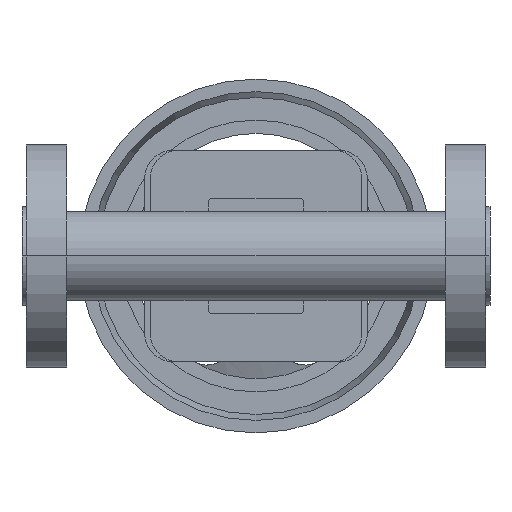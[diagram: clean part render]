
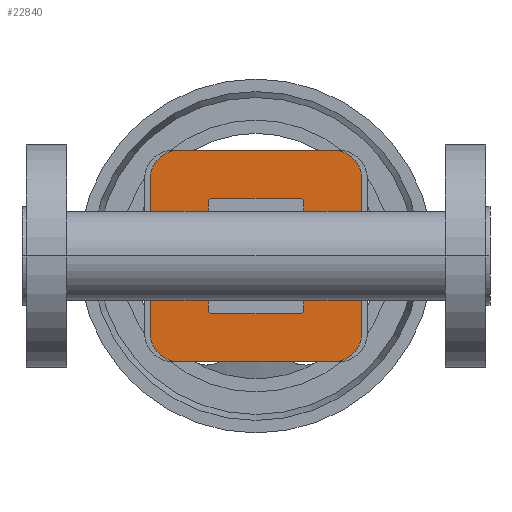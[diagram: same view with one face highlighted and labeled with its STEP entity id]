
A CAD part, front view. The second image highlights one B-rep face of the part: STEP entity #22840.
In plain terms, the highlighted planar face has unit normal (0, -1, 0).
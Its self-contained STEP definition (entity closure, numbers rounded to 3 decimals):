
#1070=CARTESIAN_POINT('',(126.533,39.,18.284));
#1080=VERTEX_POINT('',#1070);
#1110=CARTESIAN_POINT('',(119.977,39.,0.));
#1120=DIRECTION('',(0.,-1.,-0.));
#1130=DIRECTION('',(1.,0.,0.));
#1140=AXIS2_PLACEMENT_3D('',#1110,#1120,#1130);
#1150=ELLIPSE('',#1140,24.111,19.);
#1160=CARTESIAN_POINT('',(126.533,39.,-18.284));
#1170=VERTEX_POINT('',#1160);
#1180=EDGE_CURVE('',#1170,#1080,#1150,.T.);
#9020=CARTESIAN_POINT('',(57.5,39.,34.5));
#9030=VERTEX_POINT('',#9020);
#9190=CARTESIAN_POINT('',(70.5,39.,47.5));
#9200=VERTEX_POINT('',#9190);
#9230=CARTESIAN_POINT('',(70.5,39.,34.5));
#9240=DIRECTION('',(0.,1.,0.));
#9250=DIRECTION('',(-1.,0.,0.));
#9260=AXIS2_PLACEMENT_3D('',#9230,#9240,#9250);
#9270=CIRCLE('',#9260,13.);
#9280=EDGE_CURVE('',#9030,#9200,#9270,.T.);
#9510=CARTESIAN_POINT('',(139.5,39.,47.5));
#9520=VERTEX_POINT('',#9510);
#9550=CARTESIAN_POINT('',(70.5,39.,47.5));
#9560=DIRECTION('',(1.,0.,0.));
#9570=VECTOR('',#9560,1.);
#9580=LINE('',#9550,#9570);
#9590=EDGE_CURVE('',#9200,#9520,#9580,.T.);
#9750=CARTESIAN_POINT('',(70.5,39.,-47.5));
#9760=VERTEX_POINT('',#9750);
#9920=CARTESIAN_POINT('',(57.5,39.,-34.5));
#9930=VERTEX_POINT('',#9920);
#9960=CARTESIAN_POINT('',(70.5,39.,-34.5));
#9970=DIRECTION('',(0.,1.,0.));
#9980=DIRECTION('',(0.,0.,-1.));
#9990=AXIS2_PLACEMENT_3D('',#9960,#9970,#9980);
#10000=CIRCLE('',#9990,13.);
#10010=EDGE_CURVE('',#9760,#9930,#10000,.T.);
#10280=CARTESIAN_POINT('',(152.5,39.,-34.5));
#10290=VERTEX_POINT('',#10280);
#10450=CARTESIAN_POINT('',(139.5,39.,-47.5));
#10460=VERTEX_POINT('',#10450);
#10490=CARTESIAN_POINT('',(139.5,39.,-34.5));
#10500=DIRECTION('',(-0.,1.,0.));
#10510=DIRECTION('',(1.,0.,0.));
#10520=AXIS2_PLACEMENT_3D('',#10490,#10500,#10510);
#10530=CIRCLE('',#10520,13.);
#10540=EDGE_CURVE('',#10290,#10460,#10530,.T.);
#10720=CARTESIAN_POINT('',(139.5,39.,-47.5));
#10730=DIRECTION('',(-1.,0.,0.));
#10740=VECTOR('',#10730,1.);
#10750=LINE('',#10720,#10740);
#10760=EDGE_CURVE('',#10460,#9760,#10750,.T.);
#10940=CARTESIAN_POINT('',(57.5,39.,-34.5));
#10950=DIRECTION('',(0.,0.,1.));
#10960=VECTOR('',#10950,1.);
#10970=LINE('',#10940,#10960);
#10980=EDGE_CURVE('',#9930,#9030,#10970,.T.);
#11220=CARTESIAN_POINT('',(62.,39.,6.));
#11230=VERTEX_POINT('',#11220);
#11260=CARTESIAN_POINT('',(105.,39.,6.));
#11270=DIRECTION('',(1.,0.,0.));
#11280=VECTOR('',#11270,1.);
#11290=LINE('',#11260,#11280);
#11300=CARTESIAN_POINT('',(77.65,39.,6.));
#11310=VERTEX_POINT('',#11300);
#11320=EDGE_CURVE('',#11230,#11310,#11290,.T.);
#14100=CARTESIAN_POINT('',(124.5,39.,26.));
#14110=VERTEX_POINT('',#14100);
#14260=CARTESIAN_POINT('',(85.5,39.,26.));
#14270=VERTEX_POINT('',#14260);
#14300=CARTESIAN_POINT('',(114.75,39.,26.));
#14310=DIRECTION('',(1.,0.,0.));
#14320=VECTOR('',#14310,1.);
#14330=LINE('',#14300,#14320);
#14340=EDGE_CURVE('',#14270,#14110,#14330,.T.);
#15200=CARTESIAN_POINT('',(128.5,39.,-18.648));
#15210=DIRECTION('',(-0.,-1.,0.));
#15220=DIRECTION('',(-0.783,0.,0.622));
#15230=AXIS2_PLACEMENT_3D('',#15200,#15210,#15220);
#15240=CIRCLE('',#15230,2.);
#15250=CARTESIAN_POINT('',(126.5,39.,-18.648));
#15260=VERTEX_POINT('',#15250);
#15270=EDGE_CURVE('',#1170,#15260,#15240,.T.);
#15440=CARTESIAN_POINT('',(105.,39.,0.));
#15450=DIRECTION('',(0.,1.,0.));
#15460=DIRECTION('',(-0.783,0.,-0.622));
#15470=AXIS2_PLACEMENT_3D('',#15440,#15450,#15460);
#15480=CIRCLE('',#15470,28.);
#15490=CARTESIAN_POINT('',(83.067,39.,17.405));
#15500=VERTEX_POINT('',#15490);
#15510=EDGE_CURVE('',#11310,#15500,#15480,.T.);
#15730=CARTESIAN_POINT('',(126.5,39.,18.648));
#15740=VERTEX_POINT('',#15730);
#15770=CARTESIAN_POINT('',(128.5,39.,18.648));
#15780=DIRECTION('',(0.,-1.,-0.));
#15790=DIRECTION('',(-1.,0.,0.));
#15800=AXIS2_PLACEMENT_3D('',#15770,#15780,#15790);
#15810=CIRCLE('',#15800,2.);
#15820=EDGE_CURVE('',#15740,#1080,#15810,.T.);
#15940=CARTESIAN_POINT('',(81.5,39.,18.648));
#15950=DIRECTION('',(0.,-1.,-0.));
#15960=DIRECTION('',(0.783,0.,-0.622));
#15970=AXIS2_PLACEMENT_3D('',#15940,#15950,#15960);
#15980=CIRCLE('',#15970,2.);
#15990=CARTESIAN_POINT('',(83.5,39.,18.648));
#16000=VERTEX_POINT('',#15990);
#16010=EDGE_CURVE('',#15500,#16000,#15980,.T.);
#16620=CARTESIAN_POINT('',(83.5,39.,-18.648));
#16630=VERTEX_POINT('',#16620);
#16680=CARTESIAN_POINT('',(81.5,39.,-18.648));
#16690=DIRECTION('',(0.,-1.,-0.));
#16700=DIRECTION('',(1.,0.,0.));
#16710=AXIS2_PLACEMENT_3D('',#16680,#16690,#16700);
#16720=CIRCLE('',#16710,2.);
#16730=CARTESIAN_POINT('',(83.067,39.,-17.405));
#16740=VERTEX_POINT('',#16730);
#16750=EDGE_CURVE('',#16630,#16740,#16720,.T.);
#17100=CARTESIAN_POINT('',(83.5,39.,-24.));
#17110=VERTEX_POINT('',#17100);
#17270=CARTESIAN_POINT('',(85.5,39.,-26.));
#17280=VERTEX_POINT('',#17270);
#17310=CARTESIAN_POINT('',(85.5,39.,-24.));
#17320=DIRECTION('',(0.,1.,0.));
#17330=DIRECTION('',(0.,0.,-1.));
#17340=AXIS2_PLACEMENT_3D('',#17310,#17320,#17330);
#17350=CIRCLE('',#17340,2.);
#17360=EDGE_CURVE('',#17280,#17110,#17350,.T.);
#17590=CARTESIAN_POINT('',(124.5,39.,-26.));
#17600=VERTEX_POINT('',#17590);
#17630=CARTESIAN_POINT('',(95.25,39.,-26.));
#17640=DIRECTION('',(-1.,0.,0.));
#17650=VECTOR('',#17640,1.);
#17660=LINE('',#17630,#17650);
#17670=EDGE_CURVE('',#17600,#17280,#17660,.T.);
#17910=CARTESIAN_POINT('',(126.5,39.,-24.));
#17920=VERTEX_POINT('',#17910);
#17950=CARTESIAN_POINT('',(124.5,39.,-24.));
#17960=DIRECTION('',(-0.,1.,0.));
#17970=DIRECTION('',(1.,0.,0.));
#17980=AXIS2_PLACEMENT_3D('',#17950,#17960,#17970);
#17990=CIRCLE('',#17980,2.);
#18000=EDGE_CURVE('',#17920,#17600,#17990,.T.);
#18200=CARTESIAN_POINT('',(126.5,39.,-12.));
#18210=DIRECTION('',(0.,0.,-1.));
#18220=VECTOR('',#18210,1.);
#18230=LINE('',#18200,#18220);
#18240=EDGE_CURVE('',#15260,#17920,#18230,.T.);
#18620=CARTESIAN_POINT('',(126.5,39.,24.));
#18630=VERTEX_POINT('',#18620);
#18660=CARTESIAN_POINT('',(126.5,39.,9.324));
#18670=DIRECTION('',(0.,0.,-1.));
#18680=VECTOR('',#18670,1.);
#18690=LINE('',#18660,#18680);
#18700=EDGE_CURVE('',#18630,#15740,#18690,.T.);
#18850=CARTESIAN_POINT('',(124.5,39.,24.));
#18860=DIRECTION('',(0.,1.,0.));
#18870=DIRECTION('',(0.,0.,1.));
#18880=AXIS2_PLACEMENT_3D('',#18850,#18860,#18870);
#18890=CIRCLE('',#18880,2.);
#18900=EDGE_CURVE('',#14110,#18630,#18890,.T.);
#19370=CARTESIAN_POINT('',(83.5,39.,24.));
#19380=VERTEX_POINT('',#19370);
#19410=CARTESIAN_POINT('',(85.5,39.,24.));
#19420=DIRECTION('',(0.,1.,0.));
#19430=DIRECTION('',(-1.,0.,0.));
#19440=AXIS2_PLACEMENT_3D('',#19410,#19420,#19430);
#19450=CIRCLE('',#19440,2.);
#19460=EDGE_CURVE('',#19380,#14270,#19450,.T.);
#19760=CARTESIAN_POINT('',(105.,39.,0.));
#19770=DIRECTION('',(0.,1.,0.));
#19780=DIRECTION('',(-0.783,0.,-0.622));
#19790=AXIS2_PLACEMENT_3D('',#19760,#19770,#19780);
#19800=CIRCLE('',#19790,28.);
#19810=CARTESIAN_POINT('',(77.65,39.,-6.));
#19820=VERTEX_POINT('',#19810);
#19830=EDGE_CURVE('',#16740,#19820,#19800,.T.);
#20340=CARTESIAN_POINT('',(83.5,39.,9.5));
#20350=DIRECTION('',(0.,-0.,1.));
#20360=VECTOR('',#20350,1.);
#20370=LINE('',#20340,#20360);
#20380=EDGE_CURVE('',#17110,#16630,#20370,.T.);
#20760=CARTESIAN_POINT('',(83.5,39.,9.5));
#20770=DIRECTION('',(0.,-0.,1.));
#20780=VECTOR('',#20770,1.);
#20790=LINE('',#20760,#20780);
#20800=EDGE_CURVE('',#16000,#19380,#20790,.T.);
#20940=CARTESIAN_POINT('',(62.,39.,3.));
#20950=DIRECTION('',(0.,0.,1.));
#20960=VECTOR('',#20950,1.);
#20970=LINE('',#20940,#20960);
#20980=CARTESIAN_POINT('',(62.,39.,-6.));
#20990=VERTEX_POINT('',#20980);
#21000=EDGE_CURVE('',#20990,#11230,#20970,.T.);
#21800=CARTESIAN_POINT('',(152.5,39.,34.5));
#21810=VERTEX_POINT('',#21800);
#21910=CARTESIAN_POINT('',(152.5,39.,34.5));
#21920=DIRECTION('',(0.,0.,-1.));
#21930=VECTOR('',#21920,1.);
#21940=LINE('',#21910,#21930);
#21950=EDGE_CURVE('',#21810,#10290,#21940,.T.);
#22360=CARTESIAN_POINT('',(105.,39.,0.));
#22370=DIRECTION('',(0.,1.,0.));
#22380=DIRECTION('',(0.,0.,1.));
#22390=AXIS2_PLACEMENT_3D('',#22360,#22370,#22380);
#22400=PLANE('',#22390);
#22410=ORIENTED_EDGE('',*,*,#16750,.T.);
#22420=ORIENTED_EDGE('',*,*,#20380,.T.);
#22430=ORIENTED_EDGE('',*,*,#17360,.T.);
#22440=ORIENTED_EDGE('',*,*,#17670,.T.);
#22450=ORIENTED_EDGE('',*,*,#18000,.T.);
#22460=ORIENTED_EDGE('',*,*,#18240,.T.);
#22470=ORIENTED_EDGE('',*,*,#15270,.T.);
#22480=ORIENTED_EDGE('',*,*,#1180,.F.);
#22490=ORIENTED_EDGE('',*,*,#15820,.T.);
#22500=ORIENTED_EDGE('',*,*,#18700,.T.);
#22510=ORIENTED_EDGE('',*,*,#18900,.T.);
#22520=ORIENTED_EDGE('',*,*,#14340,.T.);
#22530=ORIENTED_EDGE('',*,*,#19460,.T.);
#22540=ORIENTED_EDGE('',*,*,#20800,.T.);
#22550=ORIENTED_EDGE('',*,*,#16010,.T.);
#22560=ORIENTED_EDGE('',*,*,#15510,.T.);
#22570=ORIENTED_EDGE('',*,*,#11320,.T.);
#22580=ORIENTED_EDGE('',*,*,#21000,.T.);
#22590=CARTESIAN_POINT('',(105.,39.,-6.));
#22600=DIRECTION('',(-1.,0.,0.));
#22610=VECTOR('',#22600,1.);
#22620=LINE('',#22590,#22610);
#22630=EDGE_CURVE('',#19820,#20990,#22620,.T.);
#22640=ORIENTED_EDGE('',*,*,#22630,.T.);
#22650=ORIENTED_EDGE('',*,*,#19830,.T.);
#22660=EDGE_LOOP('',(#22650,#22640,#22580,#22570,#22560,#22550,#22540,
#22530,#22520,#22510,#22500,#22490,#22480,#22470,#22460,#22450,#22440,
#22430,#22420,#22410));
#22670=FACE_BOUND('',#22660,.T.);
#22680=ORIENTED_EDGE('',*,*,#9590,.F.);
#22690=CARTESIAN_POINT('',(139.5,39.,34.5));
#22700=DIRECTION('',(0.,1.,0.));
#22710=DIRECTION('',(0.,0.,1.));
#22720=AXIS2_PLACEMENT_3D('',#22690,#22700,#22710);
#22730=CIRCLE('',#22720,13.);
#22740=EDGE_CURVE('',#9520,#21810,#22730,.T.);
#22750=ORIENTED_EDGE('',*,*,#22740,.F.);
#22760=ORIENTED_EDGE('',*,*,#21950,.F.);
#22770=ORIENTED_EDGE('',*,*,#10540,.F.);
#22780=ORIENTED_EDGE('',*,*,#10760,.F.);
#22790=ORIENTED_EDGE('',*,*,#10010,.F.);
#22800=ORIENTED_EDGE('',*,*,#10980,.F.);
#22810=ORIENTED_EDGE('',*,*,#9280,.F.);
#22820=EDGE_LOOP('',(#22810,#22800,#22790,#22780,#22770,#22760,#22750,
#22680));
#22830=FACE_OUTER_BOUND('',#22820,.T.);
#22840=ADVANCED_FACE('',(#22670,#22830),#22400,.F.);
